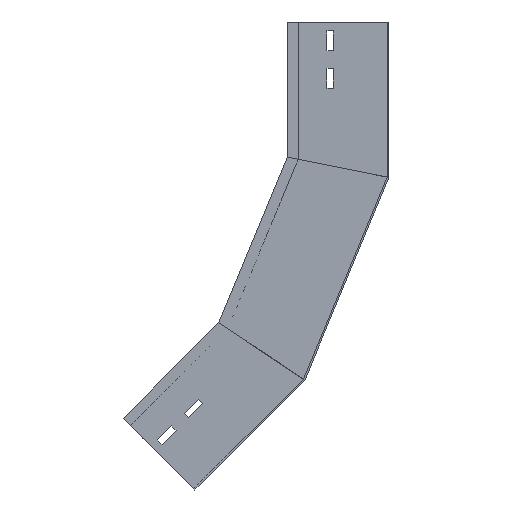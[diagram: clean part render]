
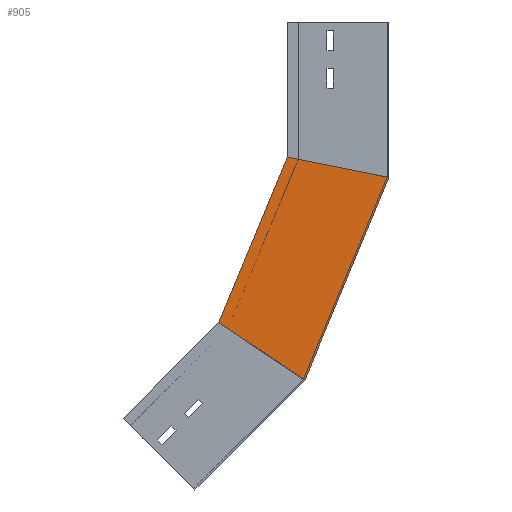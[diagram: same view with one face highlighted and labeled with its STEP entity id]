
A CAD part, left-side view. The second image highlights one B-rep face of the part: STEP entity #905.
In plain terms, the highlighted planar face has unit normal (-1, 0, 0) as drawn and (1, 0, 0) by its records, which use the part's own axes.
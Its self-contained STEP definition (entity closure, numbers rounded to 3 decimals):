
#21 = VERTEX_POINT ( 'NONE', #28 ) ;
#28 = CARTESIAN_POINT ( 'NONE',  ( 0., 112.5, -149.722 ) ) ;
#77 = DIRECTION ( 'NONE',  ( 0., 0.383, -0.924 ) ) ;
#157 = LINE ( 'NONE', #831, #1458 ) ;
#187 = CARTESIAN_POINT ( 'NONE',  ( 0., 0., -172.1 ) ) ;
#198 = LINE ( 'NONE', #901, #838 ) ;
#204 = CARTESIAN_POINT ( 'NONE',  ( 0., 188.403, -332.969 ) ) ;
#206 = CARTESIAN_POINT ( 'NONE',  ( 0., 93.03, -396.695 ) ) ;
#246 = VERTEX_POINT ( 'NONE', #204 ) ;
#318 = AXIS2_PLACEMENT_3D ( 'NONE', #376, #431, #601 ) ;
#348 = LINE ( 'NONE', #1250, #1176 ) ;
#376 = CARTESIAN_POINT ( 'NONE',  ( 0., 0., -172.1 ) ) ;
#431 = DIRECTION ( 'NONE',  ( -1., 0., 0. ) ) ;
#473 = EDGE_CURVE ( 'NONE', #507, #997, #157, .T. ) ;
#476 = EDGE_CURVE ( 'NONE', #21, #507, #971, .T. ) ;
#479 = DIRECTION ( 'NONE',  ( 0., -0.831, -0.556 ) ) ;
#494 = ORIENTED_EDGE ( 'NONE', *, *, #567, .F. ) ;
#507 = VERTEX_POINT ( 'NONE', #187 ) ;
#567 = EDGE_CURVE ( 'NONE', #21, #246, #198, .T. ) ;
#601 = DIRECTION ( 'NONE',  ( 0., 0., 1. ) ) ;
#624 = ORIENTED_EDGE ( 'NONE', *, *, #476, .T. ) ;
#698 = EDGE_CURVE ( 'NONE', #246, #997, #348, .T. ) ;
#733 = CARTESIAN_POINT ( 'NONE',  ( 0., 32.93, -165.55 ) ) ;
#831 = CARTESIAN_POINT ( 'NONE',  ( 0., 0., -172.1 ) ) ;
#838 = VECTOR ( 'NONE', #1347, 1000. ) ;
#858 = DIRECTION ( 'NONE',  ( 0., -0.981, -0.195 ) ) ;
#901 = CARTESIAN_POINT ( 'NONE',  ( 0., 103.936, -129.048 ) ) ;
#905 = ADVANCED_FACE ( 'NONE', ( #998 ), #1469, .F. ) ;
#971 = LINE ( 'NONE', #733, #989 ) ;
#989 = VECTOR ( 'NONE', #858, 1000. ) ;
#997 = VERTEX_POINT ( 'NONE', #206 ) ;
#998 = FACE_OUTER_BOUND ( 'NONE', #1174, .T. ) ;
#1153 = ORIENTED_EDGE ( 'NONE', *, *, #698, .F. ) ;
#1174 = EDGE_LOOP ( 'NONE', ( #494, #624, #1253, #1153 ) ) ;
#1176 = VECTOR ( 'NONE', #479, 1000. ) ;
#1250 = CARTESIAN_POINT ( 'NONE',  ( 0., 132.464, -370.346 ) ) ;
#1253 = ORIENTED_EDGE ( 'NONE', *, *, #473, .T. ) ;
#1347 = DIRECTION ( 'NONE',  ( 0., 0.383, -0.924 ) ) ;
#1458 = VECTOR ( 'NONE', #77, 1000. ) ;
#1469 = PLANE ( 'NONE',  #318 ) ;
